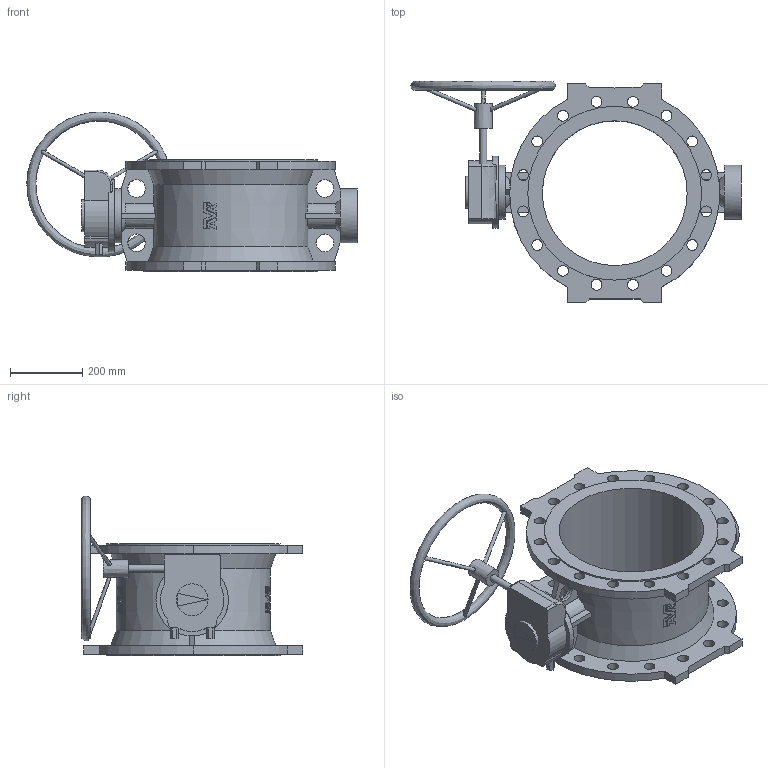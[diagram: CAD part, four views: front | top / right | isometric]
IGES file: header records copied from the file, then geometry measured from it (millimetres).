
Start section: SolidWorks IGES file using analytic representation for surfaces
Global section: file name: \\avksan2\techshare\PBM outline export from Enovia\O_756_1_DN400_0XX00_AA0_igs.igs; native system: SolidWorks 2012; preprocessor: SolidWorks 2012; author: pbm; date: 160304.124145; units: millimetre
Bounding box: 911.93 x 611 x 440.98 mm (x, y, z)
Surface area: 1793988.3 mm2 (no closed solid volume)
Topology: 0 solids, 0 shells, 354 faces, 2900 edges, 2806 vertices
Faces by surface type: bspline 251, revolution 103
